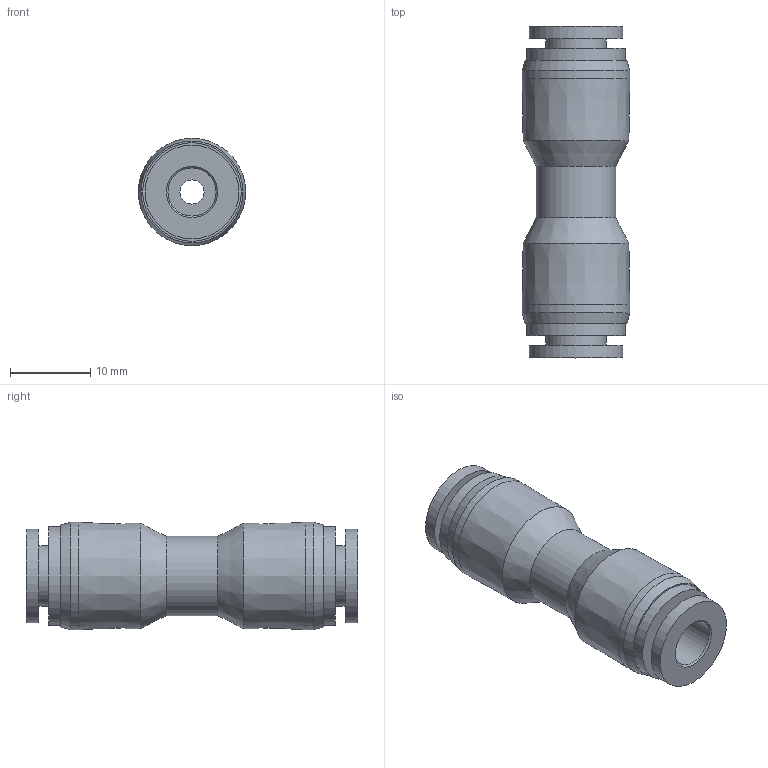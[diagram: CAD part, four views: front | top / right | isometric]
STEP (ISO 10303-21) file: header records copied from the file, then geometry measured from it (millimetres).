
FILE_DESCRIPTION(/* description */ (''),/* implementation_level */ '2;1');
FILE_NAME(/* name */ 'S:\_Tecnico\ArchivioUT\_Disegni3D ingombri\DISEGNI 3D per ingombri\RF\RF220006.stp',/* time_stamp */ '2019-10-01T08:36:48+02:00',/* author */ ('ufficiotecnico3'),/* organization */ (''),/* preprocessor_version */ 'ST-DEVELOPER v18',/* originating_system */ 'Autodesk Inventor 2020',/* authorisation */ '');
FILE_SCHEMA (('AUTOMOTIVE_DESIGN { 1 0 10303 214 3 1 1 }'));
Length unit declared in the file: millimetre
Products named in the file (1): Parte2
Bounding box: 13.4 x 41.4 x 13.4 mm (x, y, z)
Volume: 3835.4 mm3; surface area: 2740.3 mm2
Topology: 1 solids, 1 shells, 30 faces, 76 edges, 56 vertices
Faces by surface type: cylinder 12, plane 10, cone 8
Full cylindrical faces by diameter (mm): 3 x1, 6 x2, 7.5 x2, 9.9 x1, 11.7 x2, 12.3 x2, 13.4 x2
Entity records: 1009 total; most frequent: DIRECTION 194, CARTESIAN_POINT 163, ORIENTED_EDGE 152, AXIS2_PLACEMENT_3D 87, EDGE_CURVE 76, CIRCLE 56, VERTEX_POINT 56, EDGE_LOOP 40
